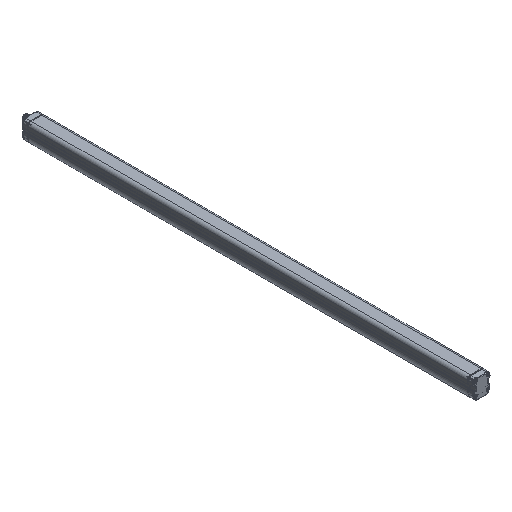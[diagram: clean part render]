
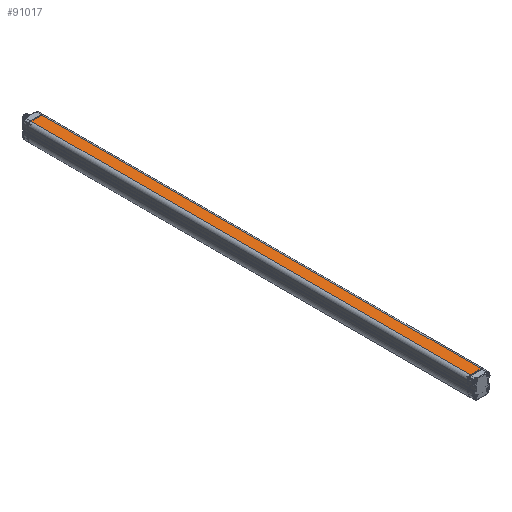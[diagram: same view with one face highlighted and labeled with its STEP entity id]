
A CAD part, isometric view. The second image highlights one B-rep face of the part: STEP entity #91017.
In plain terms, the highlighted planar face has unit normal (0, 0, 1).
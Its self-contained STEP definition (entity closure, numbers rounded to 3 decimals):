
#2278=DIRECTION('',(-1.,0.,0.));
#2279=VECTOR('',#2278,22.);
#2280=CARTESIAN_POINT('',(28.5,0.,
40.));
#2281=LINE('',#2280,#2279);
#2285=DIRECTION('',(0.,1.,0.));
#2286=VECTOR('',#2285,915.2);
#2287=CARTESIAN_POINT('',(6.5,0.,
40.));
#2288=LINE('',#2287,#2286);
#2292=DIRECTION('',(1.,0.,0.));
#2293=VECTOR('',#2292,22.);
#2294=CARTESIAN_POINT('',(6.5,915.2,40.));
#2295=LINE('',#2294,#2293);
#2299=CARTESIAN_POINT('',(6.5,0.,
40.));
#3947=CARTESIAN_POINT('',(28.5,0.,
40.));
#3952=DIRECTION('',(0.,1.,0.));
#3953=VECTOR('',#3952,915.2);
#3954=CARTESIAN_POINT('',(28.5,0.,
40.));
#3955=LINE('',#3954,#3953);
#84854=CARTESIAN_POINT('',(6.5,915.2,40.));
#84856=VERTEX_POINT('',#84854);
#84883=CARTESIAN_POINT('',(28.5,915.2,40.));
#84885=VERTEX_POINT('',#84883);
#86095=VERTEX_POINT('',#3947);
#86121=VERTEX_POINT('',#2299);
#91003=CARTESIAN_POINT('',(6.5,0.,40.));
#91004=DIRECTION('',(0.,0.,1.));
#91005=DIRECTION('',(1.,0.,0.));
#91006=AXIS2_PLACEMENT_3D('',#91003,#91004,#91005);
#91007=PLANE('',#91006);
#91008=ORIENTED_EDGE('',*,*,#90982,.T.);
#91010=ORIENTED_EDGE('',*,*,#91009,.T.);
#91012=ORIENTED_EDGE('',*,*,#91011,.T.);
#91014=ORIENTED_EDGE('',*,*,#91013,.F.);
#91015=EDGE_LOOP('',(#91008,#91010,#91012,#91014));
#91016=FACE_OUTER_BOUND('',#91015,.F.);
#91017=ADVANCED_FACE('',(#91016),#91007,.T.);
#90982=EDGE_CURVE('',#86095,#86121,#2281,.T.);
#91009=EDGE_CURVE('',#86121,#84856,#2288,.T.);
#91011=EDGE_CURVE('',#84856,#84885,#2295,.T.);
#91013=EDGE_CURVE('',#86095,#84885,#3955,.T.);
